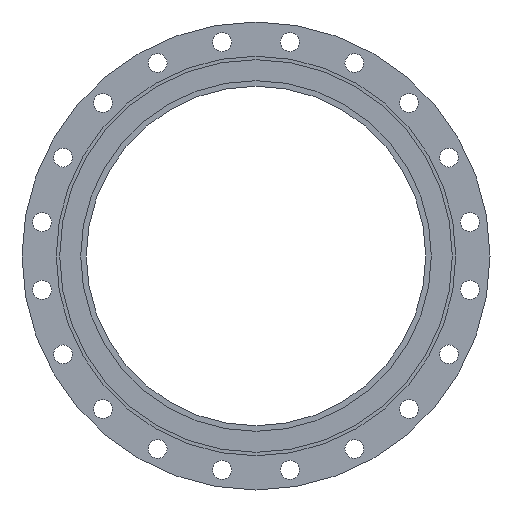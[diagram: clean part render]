
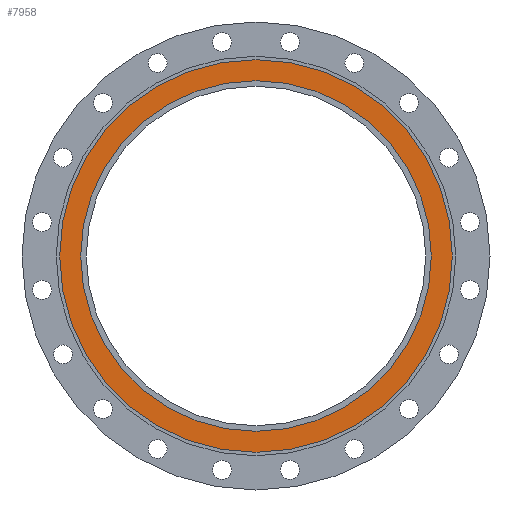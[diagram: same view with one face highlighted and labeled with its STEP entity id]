
A CAD part, left-side view. The second image highlights one B-rep face of the part: STEP entity #7958.
In plain terms, the highlighted planar face has unit normal (-1, 0, 0).
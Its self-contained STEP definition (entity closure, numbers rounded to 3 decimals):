
#7958=ADVANCED_FACE('',(#14433,#14435),#14437,.T.);
#14433=FACE_BOUND('',#14434,.T.);
#14434=EDGE_LOOP('',(#19834,#19835));
#14435=FACE_BOUND('',#14436,.T.);
#14436=EDGE_LOOP('',(#19836));
#14437=PLANE('',#14438);
#14438=AXIS2_PLACEMENT_3D('',#14439,#14440,#14441);
#14439=CARTESIAN_POINT('',(10273.577,-279.566,0.));
#14440=DIRECTION('',(-1.,0.,0.));
#14441=DIRECTION('',(0.,0.,1.));
#19834=ORIENTED_EDGE('',*,*,#22547,.T.);
#19835=ORIENTED_EDGE('',*,*,#22548,.T.);
#19836=ORIENTED_EDGE('',*,*,#22549,.F.);
#22547=EDGE_CURVE('',#26832,#26833,#26834,.T.);
#22548=EDGE_CURVE('',#26833,#26832,#26835,.T.);
#22549=EDGE_CURVE('',#26836,#26836,#26837,.T.);
#26832=VERTEX_POINT('',#36297);
#26833=VERTEX_POINT('',#36298);
#26834=CIRCLE('',#36299,281.);
#26835=CIRCLE('',#36303,281.);
#26836=VERTEX_POINT('',#36307);
#26837=CIRCLE('',#36308,251.);
#36297=CARTESIAN_POINT('',(10273.577,-309.566,0.));
#36298=CARTESIAN_POINT('',(10273.577,252.434,0.));
#36299=AXIS2_PLACEMENT_3D('',#36300,#36301,#36302);
#36300=CARTESIAN_POINT('',(10273.577,-28.566,0.));
#36301=DIRECTION('',(-1.,0.,0.));
#36302=DIRECTION('',(0.,-1.,0.));
#36303=AXIS2_PLACEMENT_3D('',#36304,#36305,#36306);
#36304=CARTESIAN_POINT('',(10273.577,-28.566,0.));
#36305=DIRECTION('',(-1.,0.,0.));
#36306=DIRECTION('',(0.,1.,0.));
#36307=CARTESIAN_POINT('',(10273.577,-279.566,0.));
#36308=AXIS2_PLACEMENT_3D('',#36309,#36310,#36311);
#36309=CARTESIAN_POINT('',(10273.577,-28.566,0.));
#36310=DIRECTION('',(-1.,0.,0.));
#36311=DIRECTION('',(0.,-1.,0.));
